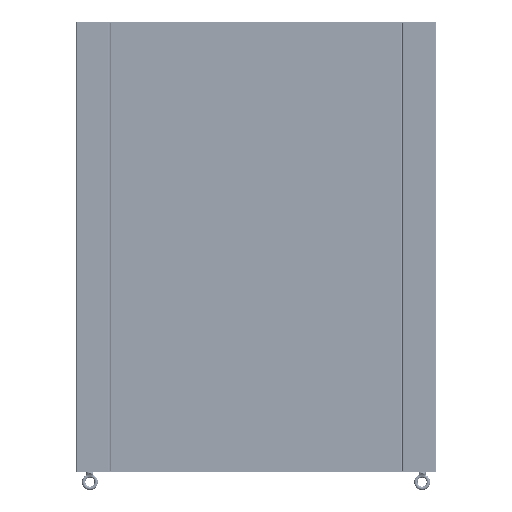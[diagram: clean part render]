
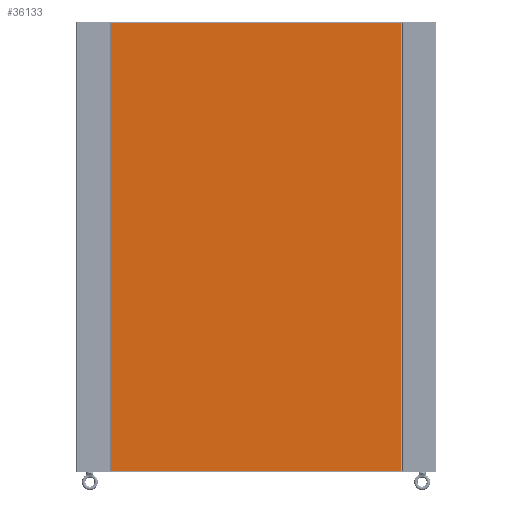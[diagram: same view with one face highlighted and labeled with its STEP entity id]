
A CAD part, left-side view. The second image highlights one B-rep face of the part: STEP entity #36133.
In plain terms, the highlighted planar face has unit normal (-1, 0, 0) as drawn and (0, 0, -1) by its records, which use the part's own axes.
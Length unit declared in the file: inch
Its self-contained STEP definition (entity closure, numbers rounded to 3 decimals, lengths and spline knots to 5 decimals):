
#35154=DIRECTION('',(0.,-1.,0.));
#35155=VECTOR('',#35154,59.792);
#35156=CARTESIAN_POINT('',(-19.311,29.896,-0.104));
#35157=LINE('',#35156,#35155);
#35344=DIRECTION('',(0.,1.,0.));
#35345=VECTOR('',#35344,59.792);
#35346=CARTESIAN_POINT('',(19.311,-29.896,-0.104));
#35347=LINE('',#35346,#35345);
#35505=DIRECTION('',(-1.,0.,0.));
#35506=VECTOR('',#35505,38.622);
#35507=CARTESIAN_POINT('',(19.311,29.896,-0.104));
#35508=LINE('',#35507,#35506);
#35512=DIRECTION('',(1.,0.,0.));
#35513=VECTOR('',#35512,38.622);
#35514=CARTESIAN_POINT('',(-19.311,-29.896,-0.104));
#35515=LINE('',#35514,#35513);
#35523=CARTESIAN_POINT('',(-19.311,-29.896,-0.104));
#35524=VERTEX_POINT('',#35523);
#35525=CARTESIAN_POINT('',(-19.311,29.896,-0.104));
#35526=VERTEX_POINT('',#35525);
#35539=CARTESIAN_POINT('',(19.311,29.896,-0.104));
#35540=VERTEX_POINT('',#35539);
#35541=CARTESIAN_POINT('',(19.311,-29.896,-0.104));
#35542=VERTEX_POINT('',#35541);
#36122=CARTESIAN_POINT('',(0.,0.,-0.104));
#36123=DIRECTION('',(0.,0.,1.));
#36124=DIRECTION('',(1.,0.,0.));
#36125=AXIS2_PLACEMENT_3D('',#36122,#36123,#36124);
#36126=PLANE('',#36125);
#36127=ORIENTED_EDGE('',*,*,#35614,.T.);
#36128=ORIENTED_EDGE('',*,*,#35659,.T.);
#36129=ORIENTED_EDGE('',*,*,#35873,.T.);
#36130=ORIENTED_EDGE('',*,*,#35917,.T.);
#36131=EDGE_LOOP('',(#36127,#36128,#36129,#36130));
#36132=FACE_OUTER_BOUND('',#36131,.F.);
#35614=EDGE_CURVE('',#35540,#35526,#35508,.T.);
#35659=EDGE_CURVE('',#35526,#35524,#35157,.T.);
#35873=EDGE_CURVE('',#35524,#35542,#35515,.T.);
#35917=EDGE_CURVE('',#35542,#35540,#35347,.T.);
#36133=ADVANCED_FACE('',(#36132),#36126,.F.);
